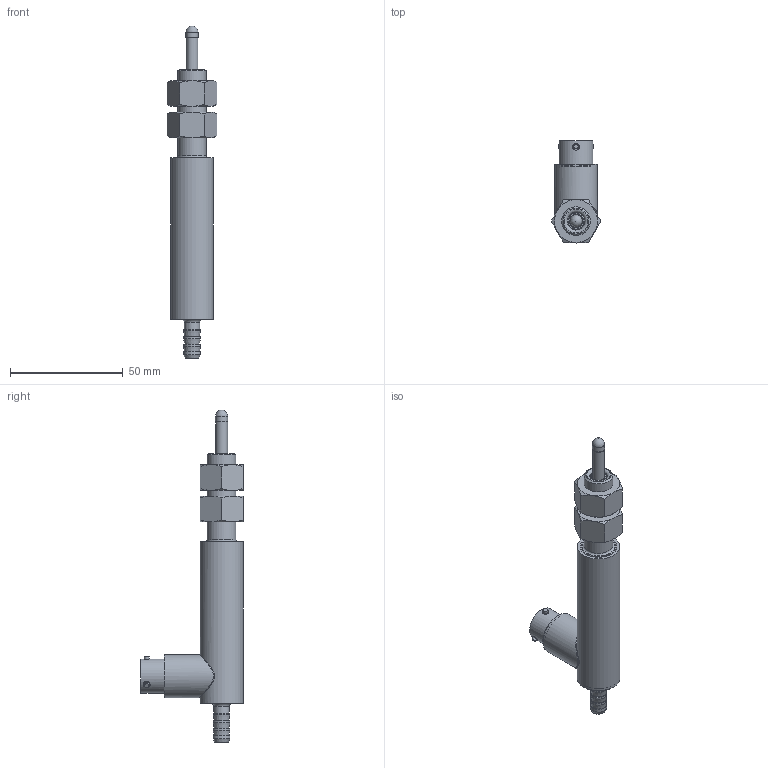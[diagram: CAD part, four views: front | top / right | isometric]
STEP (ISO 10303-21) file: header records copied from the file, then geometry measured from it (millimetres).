
FILE_DESCRIPTION(/* description */ (''),/* implementation_level */ '2;1');
FILE_NAME(/* name */ 'GHRA-750-I-100 ASS''Y.step',/* time_stamp */ '2023-09-01T12:43:05-04:00',/* author */ ('J. Nielson'),/* organization */ (''),/* preprocessor_version */ 'ST-DEVELOPER v19.2',/* originating_system */ 'Autodesk Inventor 2024',/* authorisation */ '');
FILE_SCHEMA (('AUTOMOTIVE_DESIGN { 1 0 10303 214 3 1 1 }'));
Length unit declared in the file: inch
Products named in the file (4): GHR-750-E-100 ASS'Y; GHR-750-E-050 HOUSING_SW; GHR-750-E-050 SHAFT_SW; AS 2465 - 1/2  UNF
Assembly tree (4 placements, depth 2):
  GHR-750-E-100 ASS'Y
    GHR-750-E-050 HOUSING_SW
    GHR-750-E-050 SHAFT_SW
    AS 2465 - 1/2  UNF  x2
Bounding box: 22 x 45.24 x 147.19 mm (x, y, z)
Volume: 19362.4 mm3; surface area: 22143.7 mm2
Topology: 17 solids, 17 shells, 228 faces, 458 edges, 297 vertices
Faces by surface type: plane 91, cylinder 76, cone 48, bspline 8, torus 4, sphere 1
Full cylindrical faces by diameter (mm): 0.762 x12, 2.032 x3, 2.845 x3, 3.048 x3, 4.762 x1, 4.826 x2, 5.334 x4, 5.397 x1, 6 x1, 6.731 x1, 7.493 x4, 7.671 x2, 7.874 x3, 11.328 x2, 12.7 x1, 13.208 x1, 14.986 x1, 15.748 x2, 16.51 x1, 17.018 x1, 17.069 x1, 17.78 x1, 18.034 x1, 18.415 x6, 19.05 x2
Entity records: 7717 total; most frequent: CARTESIAN_POINT 2954, DIRECTION 963, ORIENTED_EDGE 812, AXIS2_PLACEMENT_3D 412, EDGE_CURVE 406, VERTEX_POINT 267, EDGE_LOOP 265, FACE_OUTER_BOUND 205
